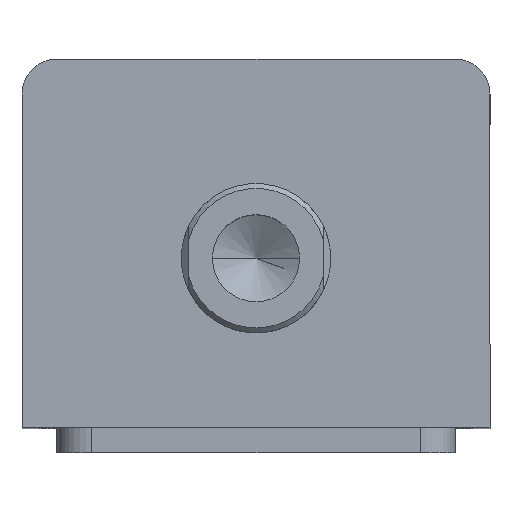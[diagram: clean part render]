
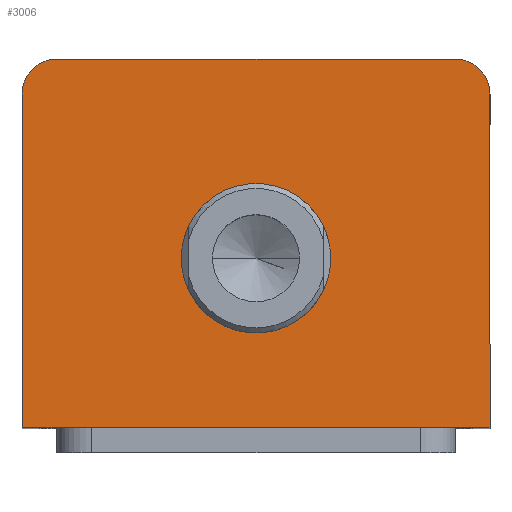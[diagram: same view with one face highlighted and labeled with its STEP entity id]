
A CAD part, top view. The second image highlights one B-rep face of the part: STEP entity #3006.
In plain terms, the highlighted planar face has unit normal (0, 0, 1).
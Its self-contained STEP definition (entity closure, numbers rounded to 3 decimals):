
#133 = FACE_BOUND ( 'NONE', #416, .T. ) ;
#136 = FACE_OUTER_BOUND ( 'NONE', #448, .T. ) ;
#330 = VERTEX_POINT ( 'NONE', #1796 ) ;
#361 = VERTEX_POINT ( 'NONE', #1766 ) ;
#367 = VERTEX_POINT ( 'NONE', #1760 ) ;
#368 = VERTEX_POINT ( 'NONE', #1758 ) ;
#374 = VERTEX_POINT ( 'NONE', #1752 ) ;
#416 = EDGE_LOOP ( 'NONE', ( #2689, #2688 ) ) ;
#448 = EDGE_LOOP ( 'NONE', ( #2687, #2686, #2685, #2684, #2683, #2682 ) ) ;
#634 = EDGE_CURVE ( 'NONE', #374, #368, #2941, .T. ) ;
#873 = DIRECTION ( 'NONE',  ( 1., 0., 0. ) ) ;
#875 = DIRECTION ( 'NONE',  ( 0., 0., 1. ) ) ;
#878 = PLANE ( 'NONE',  #1975 ) ;
#886 = CARTESIAN_POINT ( 'NONE',  ( 0., 0., 115. ) ) ;
#1026 = EDGE_CURVE ( 'NONE', #330, #1564, #2036, .T. ) ;
#1041 = AXIS2_PLACEMENT_3D ( 'NONE', #1724, #1723, #1722 ) ;
#1056 = EDGE_CURVE ( 'NONE', #367, #330, #2046, .T. ) ;
#1076 = EDGE_CURVE ( 'NONE', #1584, #1567, #2090, .T. ) ;
#1080 = EDGE_CURVE ( 'NONE', #1567, #367, #2094, .T. ) ;
#1215 = CARTESIAN_POINT ( 'NONE',  ( 47., -37., 115. ) ) ;
#1238 = CARTESIAN_POINT ( 'NONE',  ( 47., 30., 115. ) ) ;
#1240 = DIRECTION ( 'NONE',  ( 1., 0., 0. ) ) ;
#1241 = DIRECTION ( 'NONE',  ( 0., 0., 1. ) ) ;
#1242 = CARTESIAN_POINT ( 'NONE',  ( 40., 30., 115. ) ) ;
#1244 = CARTESIAN_POINT ( 'NONE',  ( -47., 30., 115. ) ) ;
#1276 = DIRECTION ( 'NONE',  ( 0., 1., 0. ) ) ;
#1279 = CARTESIAN_POINT ( 'NONE',  ( 47., 37., 115. ) ) ;
#1400 = DIRECTION ( 'NONE',  ( -1., 0., 0. ) ) ;
#1413 = CARTESIAN_POINT ( 'NONE',  ( -47., 37., 115. ) ) ;
#1445 = DIRECTION ( 'NONE',  ( 1., 0., 0. ) ) ;
#1446 = DIRECTION ( 'NONE',  ( 0., 0., 1. ) ) ;
#1447 = CARTESIAN_POINT ( 'NONE',  ( -40., 30., 115. ) ) ;
#1564 = VERTEX_POINT ( 'NONE', #1244 ) ;
#1567 = VERTEX_POINT ( 'NONE', #1238 ) ;
#1584 = VERTEX_POINT ( 'NONE', #1215 ) ;
#1722 = DIRECTION ( 'NONE',  ( 1., 0., 0. ) ) ;
#1723 = DIRECTION ( 'NONE',  ( 0., 0., 1. ) ) ;
#1724 = CARTESIAN_POINT ( 'NONE',  ( 0., -3., 115. ) ) ;
#1752 = CARTESIAN_POINT ( 'NONE',  ( -15., -3., 115. ) ) ;
#1758 = CARTESIAN_POINT ( 'NONE',  ( 15., -3., 115. ) ) ;
#1760 = CARTESIAN_POINT ( 'NONE',  ( 40., 37., 115. ) ) ;
#1766 = CARTESIAN_POINT ( 'NONE',  ( -47., -37., 115. ) ) ;
#1796 = CARTESIAN_POINT ( 'NONE',  ( -40., 37., 115. ) ) ;
#1937 = AXIS2_PLACEMENT_3D ( 'NONE', #2343, #2345, #2342 ) ;
#1975 = AXIS2_PLACEMENT_3D ( 'NONE', #886, #875, #873 ) ;
#2036 = CIRCLE ( 'NONE', #2301, 7. ) ;
#2046 = LINE ( 'NONE', #1413, #2056 ) ;
#2056 = VECTOR ( 'NONE', #1400, 1000. ) ;
#2090 = LINE ( 'NONE', #1279, #2093 ) ;
#2093 = VECTOR ( 'NONE', #1276, 1000. ) ;
#2094 = CIRCLE ( 'NONE', #2288, 7. ) ;
#2166 = LINE ( 'NONE', #2420, #2169 ) ;
#2169 = VECTOR ( 'NONE', #2416, 1000. ) ;
#2192 = CIRCLE ( 'NONE', #1937, 15. ) ;
#2207 = LINE ( 'NONE', #2534, #2210 ) ;
#2210 = VECTOR ( 'NONE', #2533, 1000. ) ;
#2288 = AXIS2_PLACEMENT_3D ( 'NONE', #1242, #1241, #1240 ) ;
#2301 = AXIS2_PLACEMENT_3D ( 'NONE', #1447, #1446, #1445 ) ;
#2342 = DIRECTION ( 'NONE',  ( 1., 0., 0. ) ) ;
#2343 = CARTESIAN_POINT ( 'NONE',  ( 0., -3., 115. ) ) ;
#2345 = DIRECTION ( 'NONE',  ( 0., 0., 1. ) ) ;
#2416 = DIRECTION ( 'NONE',  ( 0., -1., 0. ) ) ;
#2420 = CARTESIAN_POINT ( 'NONE',  ( -47., 37., 115. ) ) ;
#2533 = DIRECTION ( 'NONE',  ( 1., 0., 0. ) ) ;
#2534 = CARTESIAN_POINT ( 'NONE',  ( -47., -37., 115. ) ) ;
#2583 = EDGE_CURVE ( 'NONE', #1564, #361, #2166, .T. ) ;
#2596 = EDGE_CURVE ( 'NONE', #368, #374, #2192, .T. ) ;
#2607 = EDGE_CURVE ( 'NONE', #361, #1584, #2207, .T. ) ;
#2682 = ORIENTED_EDGE ( 'NONE', *, *, #1080, .T. ) ;
#2683 = ORIENTED_EDGE ( 'NONE', *, *, #1076, .T. ) ;
#2684 = ORIENTED_EDGE ( 'NONE', *, *, #2607, .T. ) ;
#2685 = ORIENTED_EDGE ( 'NONE', *, *, #2583, .T. ) ;
#2686 = ORIENTED_EDGE ( 'NONE', *, *, #1026, .T. ) ;
#2687 = ORIENTED_EDGE ( 'NONE', *, *, #1056, .T. ) ;
#2688 = ORIENTED_EDGE ( 'NONE', *, *, #634, .F. ) ;
#2689 = ORIENTED_EDGE ( 'NONE', *, *, #2596, .F. ) ;
#2941 = CIRCLE ( 'NONE', #1041, 15. ) ;
#3006 = ADVANCED_FACE ( 'NONE', ( #133, #136 ), #878, .T. ) ;
